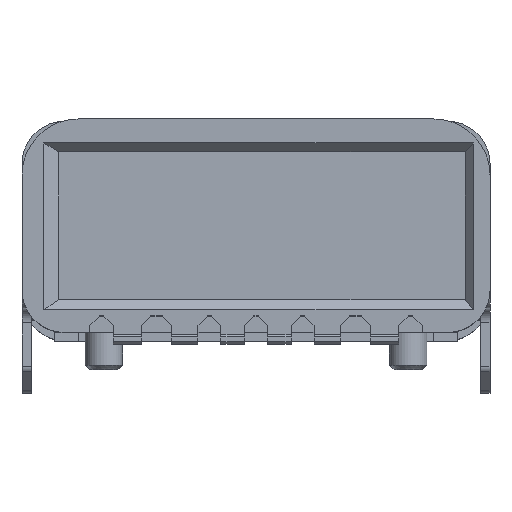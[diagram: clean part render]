
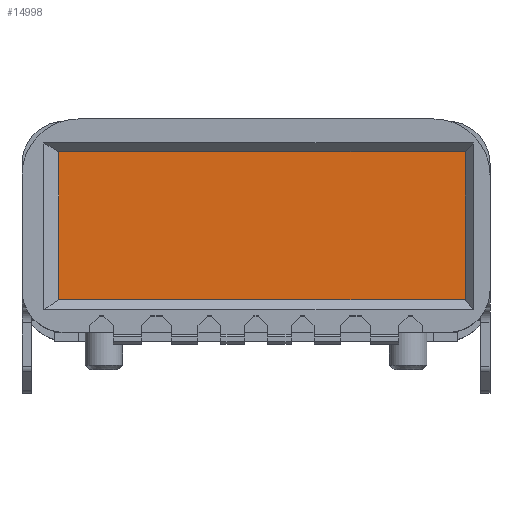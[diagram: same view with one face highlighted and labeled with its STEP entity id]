
A CAD part, top view. The second image highlights one B-rep face of the part: STEP entity #14998.
In plain terms, the highlighted planar face has unit normal (0, 0, 1).
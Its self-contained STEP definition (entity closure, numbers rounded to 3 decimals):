
#1717=DIRECTION('',(1.,0.,0.));
#1718=VECTOR('',#1717,8.69);
#1719=CARTESIAN_POINT('',(25.78,-1.58,7.7));
#1720=LINE('',#1719,#1718);
#1729=DIRECTION('',(0.,-1.,0.));
#1730=VECTOR('',#1729,3.16);
#1731=CARTESIAN_POINT('',(25.78,1.58,7.7));
#1732=LINE('',#1731,#1730);
#1741=DIRECTION('',(-1.,0.,0.));
#1742=VECTOR('',#1741,8.69);
#1743=CARTESIAN_POINT('',(34.47,1.58,7.7));
#1744=LINE('',#1743,#1742);
#1749=DIRECTION('',(0.,1.,0.));
#1750=VECTOR('',#1749,3.16);
#1751=CARTESIAN_POINT('',(34.47,-1.58,7.7));
#1752=LINE('',#1751,#1750);
#10441=CARTESIAN_POINT('',(25.78,-1.58,7.7));
#10442=VERTEX_POINT('',#10441);
#10443=CARTESIAN_POINT('',(34.47,-1.58,7.7));
#10444=VERTEX_POINT('',#10443);
#10445=CARTESIAN_POINT('',(25.78,1.58,7.7));
#10446=VERTEX_POINT('',#10445);
#10447=CARTESIAN_POINT('',(34.47,1.58,7.7));
#10448=VERTEX_POINT('',#10447);
#14987=CARTESIAN_POINT('',(30.25,-0.72,7.7));
#14988=DIRECTION('',(0.,0.,-1.));
#14989=DIRECTION('',(-1.,0.,0.));
#14990=AXIS2_PLACEMENT_3D('',#14987,#14988,#14989);
#14991=PLANE('',#14990);
#14992=ORIENTED_EDGE('',*,*,#14939,.F.);
#14993=ORIENTED_EDGE('',*,*,#14954,.F.);
#14994=ORIENTED_EDGE('',*,*,#14968,.F.);
#14995=ORIENTED_EDGE('',*,*,#14981,.F.);
#14996=EDGE_LOOP('',(#14992,#14993,#14994,#14995));
#14997=FACE_OUTER_BOUND('',#14996,.F.);
#14998=ADVANCED_FACE('',(#14997),#14991,.F.);
#14939=EDGE_CURVE('',#10442,#10444,#1720,.T.);
#14954=EDGE_CURVE('',#10446,#10442,#1732,.T.);
#14968=EDGE_CURVE('',#10448,#10446,#1744,.T.);
#14981=EDGE_CURVE('',#10444,#10448,#1752,.T.);
